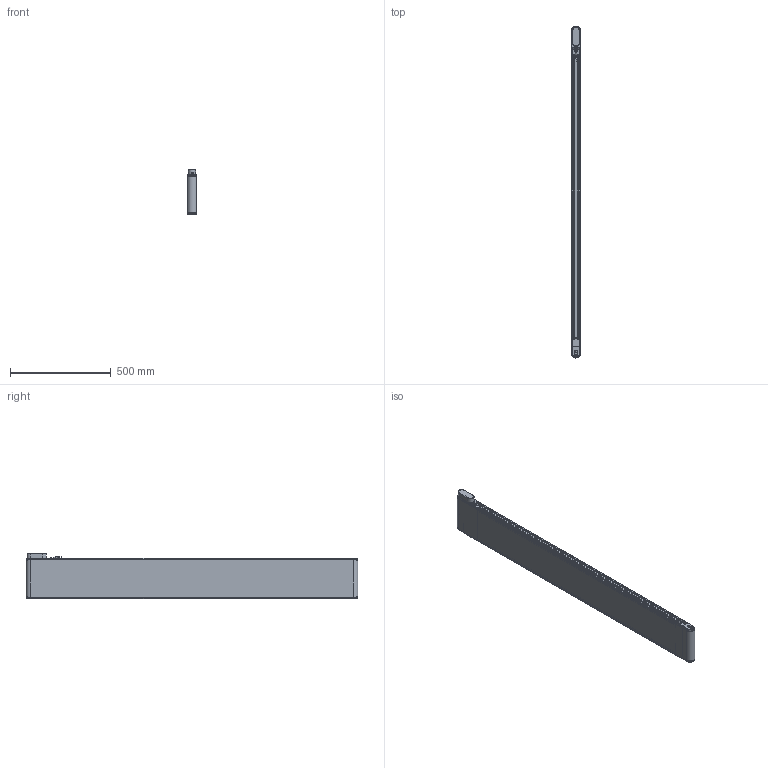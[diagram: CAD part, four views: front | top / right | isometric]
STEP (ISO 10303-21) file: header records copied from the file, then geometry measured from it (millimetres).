
FILE_DESCRIPTION(/* description */ (''),/* implementation_level */ '2;1');
FILE_NAME(/* name */ 'G:\DATEN\CAD\Förderband\Marketing\3D-Modelle (Standard)\FR-40-200-Q\FR-40-200-Q-1600-K.stp',/* time_stamp */ '2019-05-09T10:05:37+02:00',/* author */ ('melanie.ochs'),/* organization */ (''),/* preprocessor_version */ 'ST-DEVELOPER v17',/* originating_system */ 'Autodesk Inventor 2019',/* authorisation */ '');
FILE_SCHEMA (('CONFIG_CONTROL_DESIGN'));
Length unit declared in the file: centimetre
Products named in the file (1): FR-40-200-Q-1600-K
Bounding box: 46.6 x 1646.6 x 224.5 mm (x, y, z)
Volume: 4171493.8 mm3; surface area: 2170418.7 mm2
Topology: 6 solids, 25 shells, 940 faces, 2615 edges, 1754 vertices
Faces by surface type: plane 473, cylinder 299, cone 78, bspline 61, torus 29
Full cylindrical faces by diameter (mm): 1 x6, 3 x1, 4 x12, 4.3 x4, 4.917 x3, 5 x11, 5.5 x8, 6 x4, 6.5 x1, 6.773 x1, 6.917 x3, 8 x4, 8.3 x12, 8.5 x8, 8.773 x1, 10 x2, 11 x1, 12 x6, 25 x2, 28 x2, 28.01 x2, 30 x1
Entity records: 32257 total; most frequent: CARTESIAN_POINT 7045, ORIENTED_EDGE 5186, DIRECTION 4982, EDGE_CURVE 2593, AXIS2_PLACEMENT_3D 1800, VERTEX_POINT 1753, LINE 1382, VECTOR 1382
